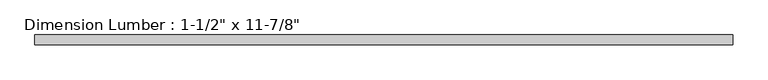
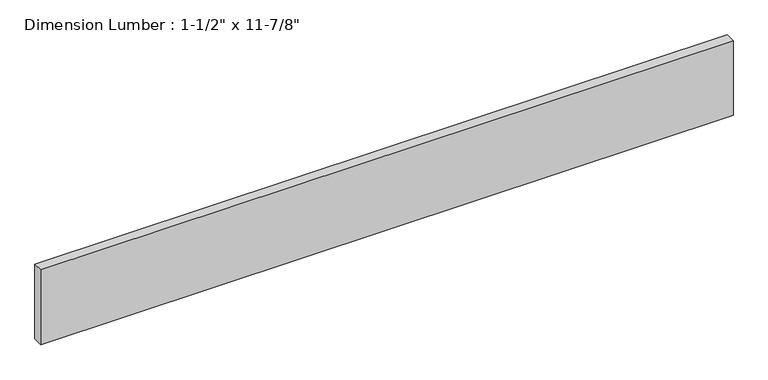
"""IFC4 building model written with IfcOpenShell, lengths in millimetres: beam geometry."""

import ifcopenshell
import ifcopenshell.guid

model = None  # the IFC model being written
_history = None  # IfcOwnerHistory: only IFC2X3 demands one
_inside = {}  # id of a spatial element -> (the spatial element, [elements in it])
_under = {}  # id of a project, library or spatial element -> (it, [spatial elements below it])
_declared = {}  # id of a project -> (the project, [libraries it declares])
_typed = {}  # id of a type object -> (the type object, [elements of that type])
_made_of = {}  # id of a material, layer set ... -> (it, [elements and type objects made of it])


def new_model(schema):
    """Start an empty IFC model of exactly this schema.

    Asked for "IFC4X3", IfcOpenShell would pick the latest addendum, in which some entities
    have other attributes; the version numbers below select the first issue.
    IFC2X3 requires an IfcOwnerHistory on every rooted entity: one is made here for all.
    """
    global model, _history
    if schema == "IFC4X3":
        model = ifcopenshell.file(schema_version=(4, 3, 0, 0))
    else:
        model = ifcopenshell.file(schema=schema)
    _inside.clear()
    _under.clear()
    _declared.clear()
    _typed.clear()
    _made_of.clear()
    _history = None
    if model.schema == "IFC2X3":
        org = make("IfcOrganization", Name="unknown")
        user = make(
            "IfcPersonAndOrganization",
            ThePerson=make("IfcPerson", FamilyName="unknown"),
            TheOrganization=org,
        )
        app = make(
            "IfcApplication",
            ApplicationDeveloper=org,
            Version="unknown",
            ApplicationFullName="unknown",
            ApplicationIdentifier="unknown",
        )
        _history = make(
            "IfcOwnerHistory",
            OwningUser=user,
            OwningApplication=app,
            ChangeAction="ADDED",
            CreationDate=0,
        )
    return model


def make(cls, **values):
    """One entity of the class cls with the attributes given. An attribute that is None is left unset."""
    return model.create_entity(
        cls, **{name: value for name, value in values.items() if value is not None}
    )


def rooted(cls, **values):
    """An entity with a GlobalId (a new one), such as an element, a storey or a relation."""
    return make(cls, GlobalId=ifcopenshell.guid.new(), OwnerHistory=_history, **values)


def si_unit(unit_type, name, prefix=None):
    """IfcSIUnit, for example si_unit("LENGTHUNIT", "METRE", prefix="MILLI")."""
    return make("IfcSIUnit", UnitType=unit_type, Prefix=prefix, Name=name)


def assignment(units):
    """IfcUnitAssignment: the units of a project."""
    return None if units is None else make("IfcUnitAssignment", Units=units)


def point(xyz):
    """IfcCartesianPoint."""
    return None if xyz is None else make("IfcCartesianPoint", Coordinates=xyz)


def direction(xyz):
    """IfcDirection."""
    return None if xyz is None else make("IfcDirection", DirectionRatios=xyz)


def frame(location, z_axis=None, x_axis=None):
    """IfcAxis2Placement3D, a coordinate frame: its origin and axes. An axis left out is left unset."""
    return make(
        "IfcAxis2Placement3D",
        Location=point(location),
        Axis=direction(z_axis),
        RefDirection=direction(x_axis),
    )


def origin():
    """The frame at (0, 0, 0) with its axes left unset."""
    return frame((0.0, 0.0, 0.0))


def place(relative_to, where):
    """IfcLocalPlacement: puts the frame where relative to a parent placement (None: the world)."""
    return make(
        "IfcLocalPlacement", PlacementRelTo=relative_to, RelativePlacement=where
    )


def context(
    kind, dimensions, precision=None, world=None, true_north=None, identifier=None
):
    """IfcGeometricRepresentationContext, for example the 3D "Model" context."""
    return make(
        "IfcGeometricRepresentationContext",
        ContextIdentifier=identifier,
        ContextType=kind,
        CoordinateSpaceDimension=dimensions,
        Precision=precision,
        WorldCoordinateSystem=world,
        TrueNorth=true_north,
    )


def project(units=None, contexts=None):
    """IfcProject with its units and contexts."""
    return rooted(
        "IfcProject",
        Name="project",
        RepresentationContexts=contexts,
        UnitsInContext=assignment(units),
    )


def spatial(cls, under=None, at=None, **own):
    """A site, building, storey or space (cls), placed at a placement, below another one or the project."""
    s = rooted(cls, ObjectPlacement=at, **own)
    if under is not None:
        _under.setdefault(under.id(), (under, []))[1].append(s)
    return s


def polyline(points):
    """IfcPolyline through the points."""
    return make("IfcPolyline", Points=[point(p) for p in points])


def outline(outer, holes=None, kind="AREA"):
    """IfcArbitraryClosedProfileDef: a profile drawn as a closed curve; with holes, ...WithVoids."""
    if holes is None:
        return make("IfcArbitraryClosedProfileDef", ProfileType=kind, OuterCurve=outer)
    return make(
        "IfcArbitraryProfileDefWithVoids",
        ProfileType=kind,
        OuterCurve=outer,
        InnerCurves=holes,
    )


def extrude(swept, where, along, depth):
    """IfcExtrudedAreaSolid: the profile swept, set in the frame where, extruded along a direction by depth."""
    return make(
        "IfcExtrudedAreaSolid",
        SweptArea=swept,
        Position=where,
        ExtrudedDirection=direction(along),
        Depth=depth,
    )


def shape(context_of_items, identifier, shape_type, items):
    """IfcShapeRepresentation: the items that make up one representation, for example the "Body"."""
    return make(
        "IfcShapeRepresentation",
        ContextOfItems=context_of_items,
        RepresentationIdentifier=identifier,
        RepresentationType=shape_type,
        Items=items,
    )


def source(mapping_origin, context_of_items, identifier, shape_type, items):
    """IfcRepresentationMap: a shape defined once, which mapped items show again and again."""
    return make(
        "IfcRepresentationMap",
        MappingOrigin=mapping_origin,
        MappedRepresentation=shape(context_of_items, identifier, shape_type, items),
    )


def transform(
    local_origin,
    x_axis=None,
    y_axis=None,
    z_axis=None,
    scale=None,
    scale2=None,
    scale3=None,
    uniform=True,
):
    """IfcCartesianTransformationOperator3D, or its non-uniform kind. x_axis, y_axis, z_axis: its Axis1, 2, 3."""
    if uniform:
        return make(
            "IfcCartesianTransformationOperator3D",
            Axis1=direction(x_axis),
            Axis2=direction(y_axis),
            LocalOrigin=point(local_origin),
            Scale=scale,
            Axis3=direction(z_axis),
        )
    return make(
        "IfcCartesianTransformationOperator3DnonUniform",
        Axis1=direction(x_axis),
        Axis2=direction(y_axis),
        LocalOrigin=point(local_origin),
        Scale=scale,
        Axis3=direction(z_axis),
        Scale2=scale2,
        Scale3=scale3,
    )


def mapped(mapping_source, mapping_target):
    """IfcMappedItem: shows the shape of a source again, moved by a transform."""
    return make(
        "IfcMappedItem", MappingSource=mapping_source, MappingTarget=mapping_target
    )


def made_of(thing, what):
    """Note that an element or type object is made of a material, layer set ...; save() writes the relation."""
    if what is not None:
        _made_of.setdefault(what.id(), (what, []))[1].append(thing)
    return thing


def element(
    cls,
    number,
    at=None,
    inside=None,
    cuts=None,
    type_object=None,
    material=None,
    context=None,
    identifier="Body",
    shape_type=None,
    held_by="IfcProductDefinitionShape",
    body=None,
    shapes=None,
    **own,
):
    """One element of the class cls, such as IfcWall. Its Tag is "e" and its number.

    at: its placement. inside: the storey or other place that contains it. cuts: it is an
    opening in that element (IfcRelVoidsElement). A single representation is given by context,
    identifier, shape_type and body (its items); several are given by shapes. held_by: the class
    of the entity that holds the representations. save() writes the other relations.
    """
    e = rooted(cls, Tag="e%d" % number, ObjectPlacement=at, **own)
    if body is not None:
        shapes = [shape(context, identifier, shape_type, body)]
    if shapes is not None:
        e.Representation = make(held_by, Representations=shapes)
    if inside is not None:
        _inside.setdefault(inside.id(), (inside, []))[1].append(e)
    if cuts is not None:
        rooted(
            "IfcRelVoidsElement", RelatingBuildingElement=cuts, RelatedOpeningElement=e
        )
    if type_object is not None:
        _typed.setdefault(type_object.id(), (type_object, []))[1].append(e)
    return made_of(e, material)


def aggregate(whole, parts):
    """IfcRelAggregates: a whole, such as a stair, and the parts it consists of."""
    return rooted("IfcRelAggregates", RelatingObject=whole, RelatedObjects=parts)


def save(model, path):
    """Write the relations noted so far, then the file.

    IfcRelAggregates (storeys below a building ...), IfcRelContainedInSpatialStructure (elements
    in a storey), IfcRelDefinesByType, IfcRelAssociatesMaterial and IfcRelDeclares: one each for
    every whole, place, type object, material and project.
    """
    for whole, parts in _under.values():
        aggregate(whole, parts)
    for where, things in _inside.values():
        rooted(
            "IfcRelContainedInSpatialStructure",
            RelatedElements=things,
            RelatingStructure=where,
        )
    for kind, things in _typed.values():
        rooted("IfcRelDefinesByType", RelatedObjects=things, RelatingType=kind)
    for what, things in _made_of.values():
        rooted("IfcRelAssociatesMaterial", RelatedObjects=things, RelatingMaterial=what)
    for by, libraries in _declared.values():
        rooted("IfcRelDeclares", RelatingContext=by, RelatedDefinitions=libraries)
    model.write(path)


def beam_bcf5812c(model_context):
    return source(origin(), model_context, "Body", "SweptSolid", [
        extrude(outline(polyline([(1311.275, 19.05), (1311.275, -19.05), (-1330.325, -19.05), (-1330.325, 19.05), (1311.275, 19.05)])), frame((0.0, 0.0, -150.8125), z_axis=(0.0, 0.0, 1.0), x_axis=(1.0, 0.0, 0.0)), (0.0, 0.0, 1.0), 301.625),
    ])


if __name__ == "__main__":
    model = new_model("IFC4")
    model_context = context("Model", 3, world=origin())
    ifc_project = project(units=[si_unit("LENGTHUNIT", "METRE", prefix="MILLI")], contexts=[model_context])
    site = spatial("IfcSite", under=ifc_project)
    building = spatial("IfcBuilding", under=site)
    placement = place(None, origin())
    beam_shape = beam_bcf5812c(model_context)
    element("IfcBeam", 1, ObjectType="Dimension Lumber : 1-1/2\" x 11-7/8\"", at=placement, inside=building, context=model_context, shape_type="MappedRepresentation", body=[
        mapped(beam_shape, transform((0.0, 0.0, 0.0), x_axis=(1.0, 0.0, 0.0), y_axis=(0.0, 1.0, 0.0), z_axis=(0.0, 0.0, 1.0))),
    ])
    save(model, "model.ifc")
